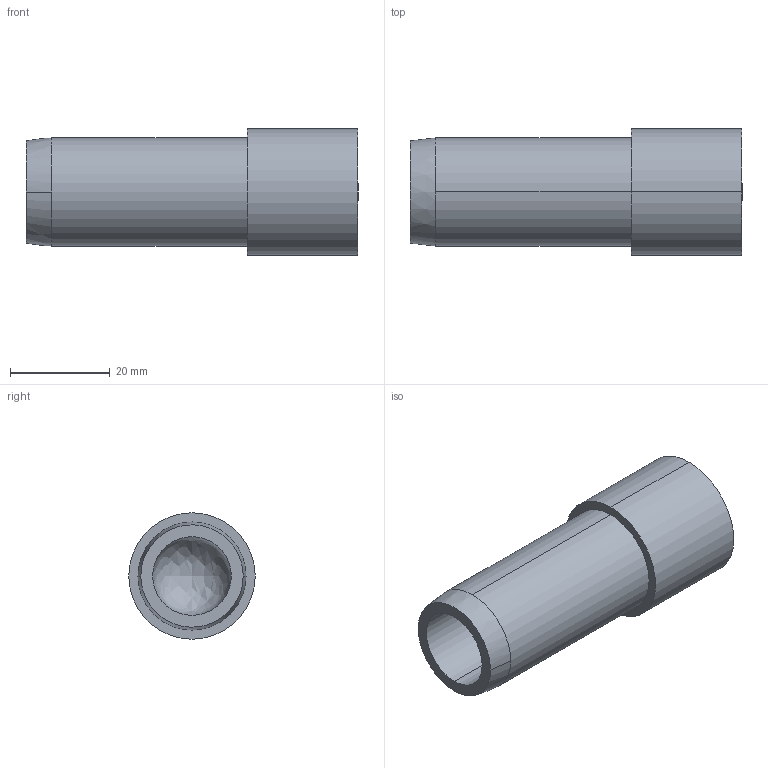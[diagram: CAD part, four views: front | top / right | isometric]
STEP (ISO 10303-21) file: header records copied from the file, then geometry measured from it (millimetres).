
FILE_DESCRIPTION (( 'STEP AP203' ), '1' );
FILE_NAME ('FDPCK-MODCON.875-END-BLNK.step', '2019-09-11T18:38:36', ( 'ydmin' ), ( '' ), 'SwSTEP 2.0', 'SolidWorks 2017', '' );
FILE_SCHEMA (( 'CONFIG_CONTROL_DESIGN' ));
Length unit declared in the file: inch
Products named in the file (1): FDPCK-MODCON.875-END-BLNK
Bounding box: 66.67 x 25.4 x 25.4 mm (x, y, z)
Volume: 19445.9 mm3; surface area: 7788.8 mm2
Topology: 1 solids, 1 shells, 14 faces, 30 edges, 19 vertices
Faces by surface type: cylinder 6, bspline 3, plane 3, cone 2
Entity records: 500 total; most frequent: CARTESIAN_POINT 129, DIRECTION 64, ORIENTED_EDGE 56, AXIS2_PLACEMENT_3D 28, EDGE_CURVE 28, VERTEX_POINT 19, EDGE_LOOP 17, CIRCLE 16
